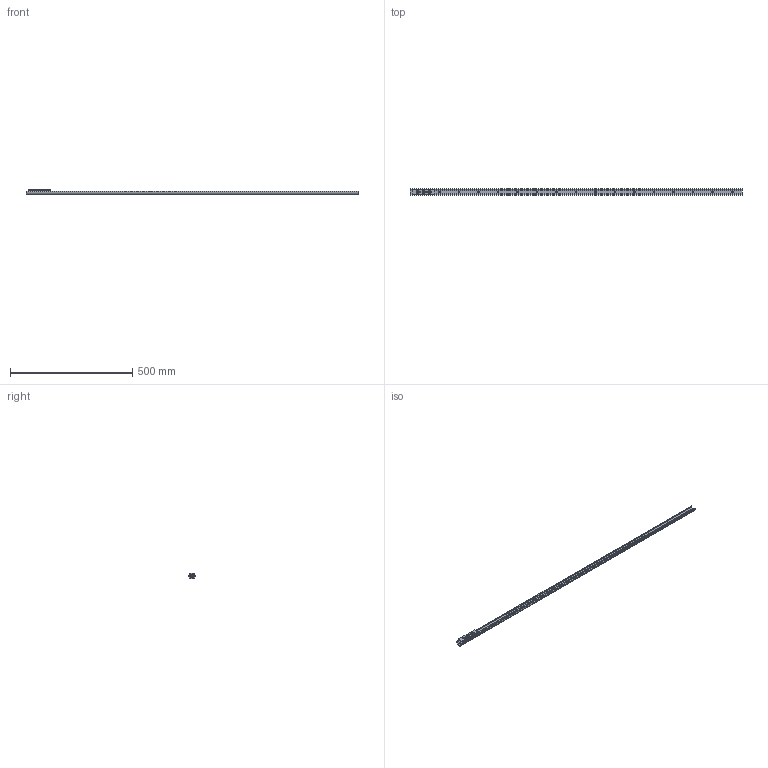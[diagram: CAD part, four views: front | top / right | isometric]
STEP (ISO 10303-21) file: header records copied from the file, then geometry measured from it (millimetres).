
FILE_DESCRIPTION( ( 'STEP AP214' ), '1' );
FILE_NAME( 'p:/temp/worker_20/temp/exporttempdir_5772_111_KqlJ1/format_1/TEN26-1360-CEN26-92.stp', '2020-05-08T18:39:18', ( 'License CC BY-ND 4.0' ), ( 'CADENAS' ), ' ', 'PARTsolutions', ' ' );
FILE_SCHEMA( ( 'AUTOMOTIVE_DESIGN { 1 0 10303 214 1 1 1 1 }' ) );
Length unit declared in the file: millimetre
Products named in the file (6): TEN26-1360-CEN26-92; _TEN 26-1360; _CEN26-92_1; _RLN26(11.2_M5); _RLA26(11.2_M5); _LAN-26
Assembly tree (8 placements, depth 2):
  TEN26-1360-CEN26-92
    _TEN 26-1360
    _CEN26-92_1
    _RLN26(11.2_M5)  x2
    _RLA26(11.2_M5)
    _LAN-26  x3
Bounding box: 1360 x 26 x 22 mm (x, y, z)
Volume: 153963.7 mm3; surface area: 129495.5 mm2
Topology: 8 solids, 8 shells, 250 faces, 552 edges, 345 vertices
Faces by surface type: plane 131, cylinder 86, cone 24, bspline 9
Full cylindrical faces by diameter (mm): 2.5 x2, 4.134 x5, 4.5 x3, 5 x6, 6.5 x17, 9.3 x3, 11.2 x6, 11.6 x6, 15.7 x6, 16.7 x6
Entity records: 5972 total; most frequent: CARTESIAN_POINT 870, DIRECTION 814, ORIENTED_EDGE 602, AXIS2_PLACEMENT_3D 343, EDGE_CURVE 301, EDGE_LOOP 300, VERTEX_POINT 231, FACE_OUTER_BOUND 218
